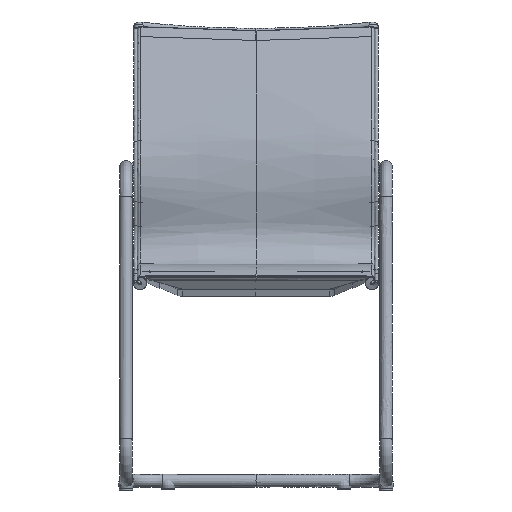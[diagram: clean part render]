
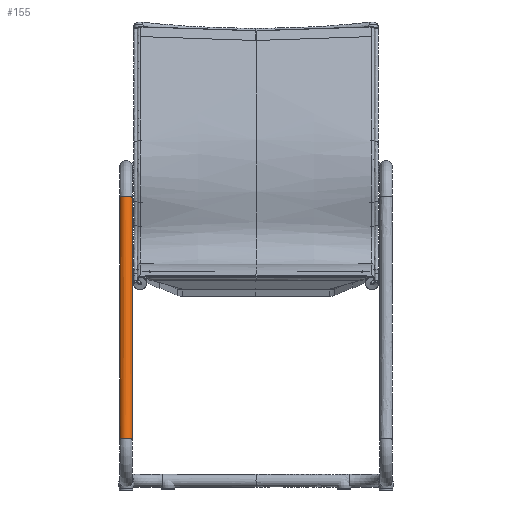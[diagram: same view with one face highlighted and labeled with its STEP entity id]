
A CAD part, front view. The second image highlights one B-rep face of the part: STEP entity #155.
In plain terms, the highlighted free-form (B-spline) face has degree [3, 2] with [4, 9] control points.
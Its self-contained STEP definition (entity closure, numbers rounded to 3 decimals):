
#155=ADVANCED_FACE('',(#295),#2232,.T.);
#295=FACE_OUTER_BOUND('',#435,.T.);
#435=EDGE_LOOP('',(#587,#588,#589,#590));
#587=ORIENTED_EDGE('',*,*,#1236,.T.);
#588=ORIENTED_EDGE('',*,*,#1237,.T.);
#589=ORIENTED_EDGE('',*,*,#1236,.F.);
#590=ORIENTED_EDGE('',*,*,#1235,.F.);
#1235=EDGE_CURVE('',#1968,#1968,#1746,.T.);
#1236=EDGE_CURVE('',#1968,#1969,#1747,.T.);
#1237=EDGE_CURVE('',#1969,#1969,#1748,.T.);
#1746=(
BOUNDED_CURVE()
B_SPLINE_CURVE(2,(#4459,#4460,#4461,#4462,#4463,#4464,#4465,#4466,#4467),
 .UNSPECIFIED.,.T.,.F.)
B_SPLINE_CURVE_WITH_KNOTS((3,2,2,2,3),(0.,19.635,39.27,
58.905,78.54),.UNSPECIFIED.)
CURVE()
GEOMETRIC_REPRESENTATION_ITEM()
RATIONAL_B_SPLINE_CURVE((1.,0.707,1.,0.707,1.,0.707,
1.,0.707,1.))
REPRESENTATION_ITEM('')
);
#1747=(
BOUNDED_CURVE()
B_SPLINE_CURVE(3,(#4468,#4469,#4470,#4471),.UNSPECIFIED.,.F.,.F.)
B_SPLINE_CURVE_WITH_KNOTS((4,4),(0.,480.156),.UNSPECIFIED.)
CURVE()
GEOMETRIC_REPRESENTATION_ITEM()
RATIONAL_B_SPLINE_CURVE((1.,1.,1.,1.))
REPRESENTATION_ITEM('')
);
#1748=(
BOUNDED_CURVE()
B_SPLINE_CURVE(2,(#4472,#4473,#4474,#4475,#4476,#4477,#4478,#4479,#4480),
 .UNSPECIFIED.,.T.,.F.)
B_SPLINE_CURVE_WITH_KNOTS((3,2,2,2,3),(0.,19.635,39.27,
58.905,78.54),.UNSPECIFIED.)
CURVE()
GEOMETRIC_REPRESENTATION_ITEM()
RATIONAL_B_SPLINE_CURVE((1.,0.707,1.,0.707,1.,0.707,
1.,0.707,1.))
REPRESENTATION_ITEM('')
);
#1968=VERTEX_POINT('',#4324);
#1969=VERTEX_POINT('',#4325);
#2232=(
BOUNDED_SURFACE()
B_SPLINE_SURFACE(3,2,((#2682,#2683,#2684,#2685,#2686,#2687,#2688,#2689,
#2690),(#2691,#2692,#2693,#2694,#2695,#2696,#2697,#2698,#2699),(#2700,#2701,
#2702,#2703,#2704,#2705,#2706,#2707,#2708),(#2709,#2710,#2711,#2712,#2713,
#2714,#2715,#2716,#2717)),.UNSPECIFIED.,.F.,.F.,.F.)
B_SPLINE_SURFACE_WITH_KNOTS((4,4),(3,2,2,2,3),(0.,480.156),(0.,
19.635,39.27,58.905,78.54),
 .UNSPECIFIED.)
GEOMETRIC_REPRESENTATION_ITEM()
RATIONAL_B_SPLINE_SURFACE(((1.,0.707,1.,0.707,1.,
0.707,1.,0.707,1.),(1.,0.707,1.,0.707,
1.,0.707,1.,0.707,1.),(1.,0.707,1.,
0.707,1.,0.707,1.,0.707,1.),(1.,0.707,
1.,0.707,1.,0.707,1.,0.707,1.)))
REPRESENTATION_ITEM('')
SURFACE()
);
#2682=CARTESIAN_POINT('',(-242.5,-225.765,98.675));
#2683=CARTESIAN_POINT('',(-242.579,-238.119,100.58));
#2684=CARTESIAN_POINT('',(-255.079,-238.041,100.568));
#2685=CARTESIAN_POINT('',(-267.579,-237.963,100.556));
#2686=CARTESIAN_POINT('',(-267.5,-225.609,98.651));
#2687=CARTESIAN_POINT('',(-267.421,-213.255,96.747));
#2688=CARTESIAN_POINT('',(-254.921,-213.333,96.759));
#2689=CARTESIAN_POINT('',(-242.421,-213.411,96.771));
#2690=CARTESIAN_POINT('',(-242.5,-225.765,98.675));
#2691=CARTESIAN_POINT('',(-242.5,-201.383,256.86));
#2692=CARTESIAN_POINT('',(-242.579,-213.737,258.764));
#2693=CARTESIAN_POINT('',(-255.079,-213.659,258.752));
#2694=CARTESIAN_POINT('',(-267.579,-213.581,258.74));
#2695=CARTESIAN_POINT('',(-267.5,-201.227,256.836));
#2696=CARTESIAN_POINT('',(-267.421,-188.874,254.931));
#2697=CARTESIAN_POINT('',(-254.921,-188.951,254.943));
#2698=CARTESIAN_POINT('',(-242.421,-189.029,254.955));
#2699=CARTESIAN_POINT('',(-242.5,-201.383,256.86));
#2700=CARTESIAN_POINT('',(-242.5,-177.001,415.044));
#2701=CARTESIAN_POINT('',(-242.579,-189.355,416.948));
#2702=CARTESIAN_POINT('',(-255.079,-189.277,416.936));
#2703=CARTESIAN_POINT('',(-267.579,-189.199,416.924));
#2704=CARTESIAN_POINT('',(-267.5,-176.846,415.02));
#2705=CARTESIAN_POINT('',(-267.421,-164.492,413.115));
#2706=CARTESIAN_POINT('',(-254.921,-164.57,413.127));
#2707=CARTESIAN_POINT('',(-242.421,-164.647,413.139));
#2708=CARTESIAN_POINT('',(-242.5,-177.001,415.044));
#2709=CARTESIAN_POINT('',(-242.5,-152.62,573.228));
#2710=CARTESIAN_POINT('',(-242.579,-164.973,575.132));
#2711=CARTESIAN_POINT('',(-255.079,-164.896,575.12));
#2712=CARTESIAN_POINT('',(-267.579,-164.818,575.108));
#2713=CARTESIAN_POINT('',(-267.5,-152.464,573.204));
#2714=CARTESIAN_POINT('',(-267.421,-140.11,571.3));
#2715=CARTESIAN_POINT('',(-254.921,-140.188,571.312));
#2716=CARTESIAN_POINT('',(-242.421,-140.266,571.324));
#2717=CARTESIAN_POINT('',(-242.5,-152.62,573.228));
#4324=CARTESIAN_POINT('',(-242.5,-225.765,98.675));
#4325=CARTESIAN_POINT('',(-242.5,-152.62,573.228));
#4459=CARTESIAN_POINT('',(-242.5,-225.765,98.675));
#4460=CARTESIAN_POINT('',(-242.579,-238.119,100.58));
#4461=CARTESIAN_POINT('',(-255.079,-238.041,100.568));
#4462=CARTESIAN_POINT('',(-267.579,-237.963,100.556));
#4463=CARTESIAN_POINT('',(-267.5,-225.609,98.651));
#4464=CARTESIAN_POINT('',(-267.421,-213.255,96.747));
#4465=CARTESIAN_POINT('',(-254.921,-213.333,96.759));
#4466=CARTESIAN_POINT('',(-242.421,-213.411,96.771));
#4467=CARTESIAN_POINT('',(-242.5,-225.765,98.675));
#4468=CARTESIAN_POINT('',(-242.5,-225.765,98.675));
#4469=CARTESIAN_POINT('',(-242.5,-201.383,256.86));
#4470=CARTESIAN_POINT('',(-242.5,-177.001,415.044));
#4471=CARTESIAN_POINT('',(-242.5,-152.62,573.228));
#4472=CARTESIAN_POINT('',(-242.5,-152.62,573.228));
#4473=CARTESIAN_POINT('',(-242.579,-164.973,575.132));
#4474=CARTESIAN_POINT('',(-255.079,-164.896,575.12));
#4475=CARTESIAN_POINT('',(-267.579,-164.818,575.108));
#4476=CARTESIAN_POINT('',(-267.5,-152.464,573.204));
#4477=CARTESIAN_POINT('',(-267.421,-140.11,571.3));
#4478=CARTESIAN_POINT('',(-254.921,-140.188,571.312));
#4479=CARTESIAN_POINT('',(-242.421,-140.266,571.324));
#4480=CARTESIAN_POINT('',(-242.5,-152.62,573.228));
